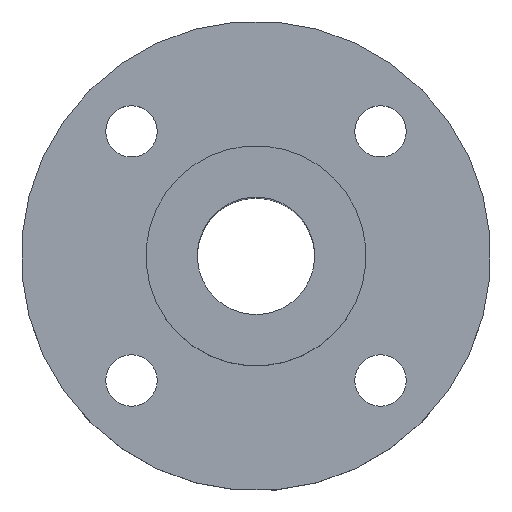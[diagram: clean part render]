
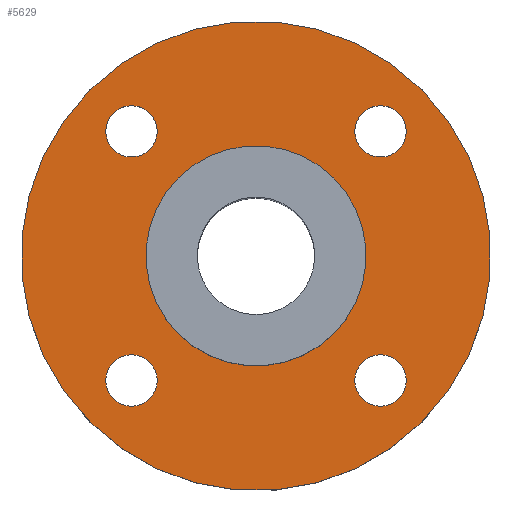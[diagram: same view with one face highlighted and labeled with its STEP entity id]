
A CAD part, top view. The second image highlights one B-rep face of the part: STEP entity #5629.
In plain terms, the highlighted planar face has unit normal (0, 0, 1).
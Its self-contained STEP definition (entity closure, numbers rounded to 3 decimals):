
#116=CIRCLE('',#5987,7.5);
#120=CIRCLE('',#5995,16.);
#121=CIRCLE('',#5997,1.75);
#122=CIRCLE('',#5998,1.75);
#123=CIRCLE('',#5999,1.75);
#124=CIRCLE('',#6000,1.75);
#527=ORIENTED_EDGE('',*,*,#2141,.F.);
#528=ORIENTED_EDGE('',*,*,#2142,.F.);
#529=ORIENTED_EDGE('',*,*,#2143,.F.);
#530=ORIENTED_EDGE('',*,*,#2144,.F.);
#531=ORIENTED_EDGE('',*,*,#2136,.T.);
#532=ORIENTED_EDGE('',*,*,#2140,.T.);
#2136=EDGE_CURVE('',#2946,#2946,#116,.F.);
#2140=EDGE_CURVE('',#2950,#2950,#120,.T.);
#2141=EDGE_CURVE('',#2951,#2951,#121,.T.);
#2142=EDGE_CURVE('',#2952,#2952,#122,.T.);
#2143=EDGE_CURVE('',#2953,#2953,#123,.T.);
#2144=EDGE_CURVE('',#2954,#2954,#124,.T.);
#2946=VERTEX_POINT('',#8884);
#2950=VERTEX_POINT('',#8896);
#2951=VERTEX_POINT('',#8899);
#2952=VERTEX_POINT('',#8901);
#2953=VERTEX_POINT('',#8903);
#2954=VERTEX_POINT('',#8905);
#4605=EDGE_LOOP('',(#527));
#4606=EDGE_LOOP('',(#528));
#4607=EDGE_LOOP('',(#529));
#4608=EDGE_LOOP('',(#530));
#4609=EDGE_LOOP('',(#531));
#4610=EDGE_LOOP('',(#532));
#5017=FACE_BOUND('',#4605,.T.);
#5018=FACE_BOUND('',#4606,.T.);
#5019=FACE_BOUND('',#4607,.T.);
#5020=FACE_BOUND('',#4608,.T.);
#5021=FACE_BOUND('',#4609,.T.);
#5022=FACE_BOUND('',#4610,.T.);
#5372=PLANE('',#5996);
#5629=ADVANCED_FACE('',(#5017,#5018,#5019,#5020,#5021,#5022),#5372,.T.);
#5987=AXIS2_PLACEMENT_3D('',#8883,#6498,#6499);
#5995=AXIS2_PLACEMENT_3D('',#8895,#6514,#6515);
#5996=AXIS2_PLACEMENT_3D('',#8897,#6516,#6517);
#5997=AXIS2_PLACEMENT_3D('',#8898,#6518,#6519);
#5998=AXIS2_PLACEMENT_3D('',#8900,#6520,#6521);
#5999=AXIS2_PLACEMENT_3D('',#8902,#6522,#6523);
#6000=AXIS2_PLACEMENT_3D('',#8904,#6524,#6525);
#6498=DIRECTION('',(0.,0.,1.));
#6499=DIRECTION('',(0.707,-0.707,0.));
#6514=DIRECTION('',(0.,0.,1.));
#6515=DIRECTION('',(0.707,-0.707,0.));
#6516=DIRECTION('',(0.,0.,1.));
#6517=DIRECTION('',(0.707,-0.707,0.));
#6518=DIRECTION('',(0.,0.,1.));
#6519=DIRECTION('',(0.707,-0.707,0.));
#6520=DIRECTION('',(0.,0.,1.));
#6521=DIRECTION('',(0.707,-0.707,0.));
#6522=DIRECTION('',(0.,0.,1.));
#6523=DIRECTION('',(0.707,-0.707,0.));
#6524=DIRECTION('',(0.,0.,1.));
#6525=DIRECTION('',(0.707,-0.707,0.));
#8883=CARTESIAN_POINT('',(0.,0.,0.));
#8884=CARTESIAN_POINT('',(5.303,-5.303,0.));
#8895=CARTESIAN_POINT('',(0.,0.,0.));
#8896=CARTESIAN_POINT('',(11.314,-11.314,0.));
#8897=CARTESIAN_POINT('',(0.,0.,0.));
#8898=CARTESIAN_POINT('',(8.485,8.485,0.));
#8899=CARTESIAN_POINT('',(9.723,7.248,0.));
#8900=CARTESIAN_POINT('',(-8.485,8.485,0.));
#8901=CARTESIAN_POINT('',(-7.248,7.248,0.));
#8902=CARTESIAN_POINT('',(-8.485,-8.485,0.));
#8903=CARTESIAN_POINT('',(-7.248,-9.723,0.));
#8904=CARTESIAN_POINT('',(8.485,-8.485,0.));
#8905=CARTESIAN_POINT('',(9.723,-9.723,0.));
